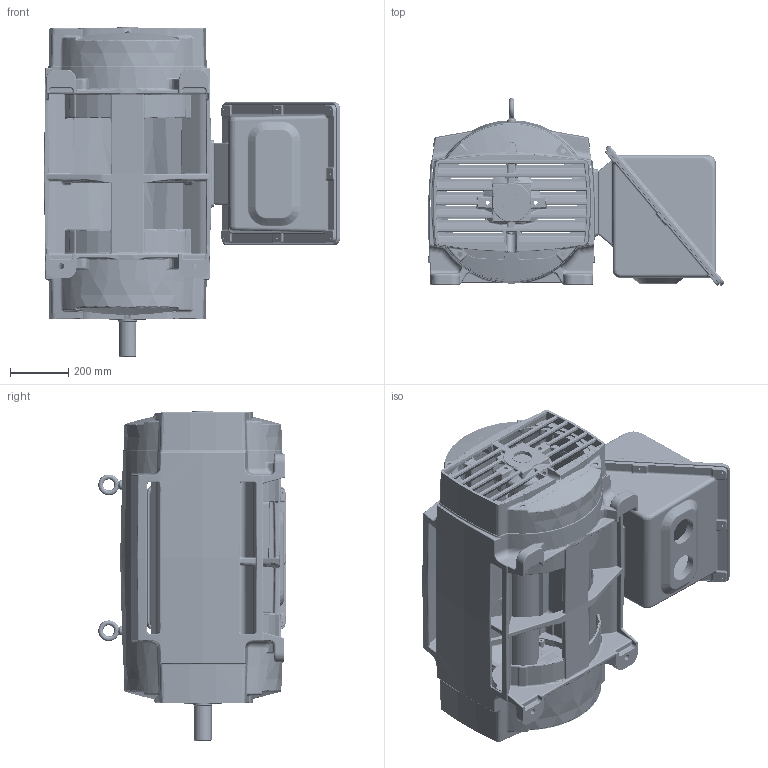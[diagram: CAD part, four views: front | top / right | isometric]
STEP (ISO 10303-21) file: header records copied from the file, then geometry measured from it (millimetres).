
FILE_DESCRIPTION((''),'2;1');
FILE_NAME('449_ODP_ASM_ASM','2019-06-05T07:16:27',('EMD2341'),('Nidec Motor Corporation'),'CREO PARAMETRIC BY PTC INC, 2018300','CREO PARAMETRIC BY PTC INC, 2018300','');
FILE_SCHEMA(('CONFIG_CONTROL_DESIGN'));
Products named in the file (9): 0179988; 0013350; 0176022; 0142469; 0441186; 0360117; 0475628; 0475629; 449_ODP_ASM_ASM
Assembly tree (10 placements, depth 2):
  449_ODP_ASM_ASM
    0179988
    0013350  x2
    0176022  x2
    0142469
    0441186
    0360117
    0475628
    0475629
Bounding box: 1018.04 x 644.77 x 1131.3 mm (x, y, z)
Volume: 51115784.1 mm3; surface area: 10230810.1 mm2
Topology: 12 solids, 54 shells, 7957 faces, 18984 edges, 10957 vertices
Faces by surface type: bspline 3611, cylinder 1760, plane 1038, torus 865, cone 374, sphere 309
Entity records: 279804 total; most frequent: CARTESIAN_POINT 162572, ORIENTED_EDGE 27594, DIRECTION 20425, EDGE_CURVE 13932, AXIS2_PLACEMENT_3D 8722, VERTEX_POINT 8055, EDGE_LOOP 6033, FACE_OUTER_BOUND 5880
